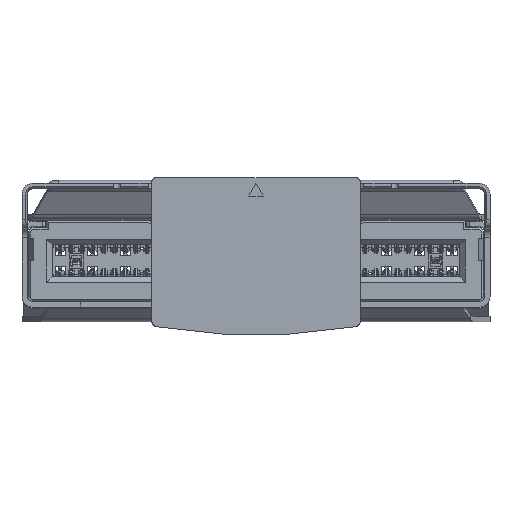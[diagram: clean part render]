
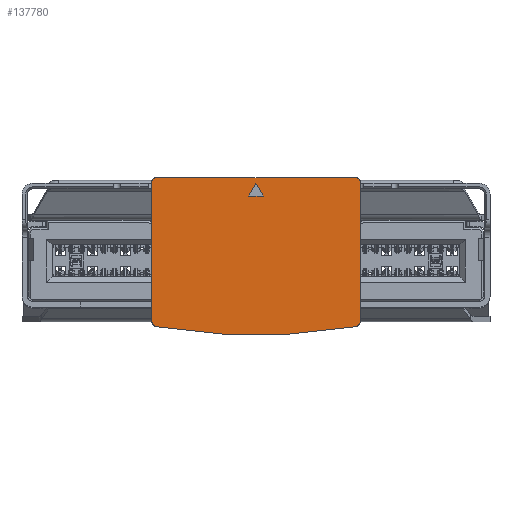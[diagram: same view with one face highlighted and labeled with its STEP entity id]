
A CAD part, top view. The second image highlights one B-rep face of the part: STEP entity #137780.
In plain terms, the highlighted planar face has unit normal (0, 0, 1).
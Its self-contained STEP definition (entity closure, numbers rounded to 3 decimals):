
#135042=CARTESIAN_POINT('',(5.74,-3.337,2.05));
#135043=CARTESIAN_POINT('',(5.74,-3.387,2.05));
#135044=CARTESIAN_POINT('',(5.718,-3.476,2.05));
#135045=CARTESIAN_POINT('',(5.626,-3.586,2.05));
#135046=CARTESIAN_POINT('',(5.54,-3.625,2.05));
#135047=CARTESIAN_POINT('',(5.49,-3.633,2.05));
#135049=CARTESIAN_POINT('',(0.,29.108,2.05));
#135050=DIRECTION('',(0.,0.,-1.));
#135051=DIRECTION('',(0.165,-0.986,0.));
#135052=AXIS2_PLACEMENT_3D('',#135049,#135050,#135051);
#135054=CARTESIAN_POINT('',(-5.49,-3.633,2.05));
#135055=CARTESIAN_POINT('',(-5.539,-3.625,2.05));
#135056=CARTESIAN_POINT('',(-5.623,-3.588,2.05));
#135057=CARTESIAN_POINT('',(-5.716,-3.479,2.05));
#135058=CARTESIAN_POINT('',(-5.74,-3.388,2.05));
#135059=CARTESIAN_POINT('',(-5.74,-3.338,2.05));
#135061=DIRECTION('',(0.,1.,0.));
#135062=VECTOR('',#135061,7.708);
#135063=CARTESIAN_POINT('',(-5.74,-3.338,2.05));
#135064=LINE('',#135063,#135062);
#135065=CARTESIAN_POINT('',(-5.54,4.37,2.05));
#135066=DIRECTION('',(0.,0.,-1.));
#135067=DIRECTION('',(-1.,0.,0.));
#135068=AXIS2_PLACEMENT_3D('',#135065,#135066,#135067);
#135070=DIRECTION('',(1.,0.,0.));
#135071=VECTOR('',#135070,11.08);
#135072=CARTESIAN_POINT('',(-5.54,4.57,2.05));
#135073=LINE('',#135072,#135071);
#135074=CARTESIAN_POINT('',(5.54,4.37,2.05));
#135075=DIRECTION('',(0.,0.,-1.));
#135076=DIRECTION('',(0.,1.,0.));
#135077=AXIS2_PLACEMENT_3D('',#135074,#135075,#135076);
#135079=DIRECTION('',(0.,-1.,0.));
#135080=VECTOR('',#135079,7.707);
#135081=CARTESIAN_POINT('',(5.74,4.37,2.05));
#135082=LINE('',#135081,#135080);
#135083=DIRECTION('',(-0.5,-0.866,0.));
#135084=VECTOR('',#135083,0.808);
#135085=CARTESIAN_POINT('',(0.,4.27,2.05));
#135086=LINE('',#135085,#135084);
#135087=DIRECTION('',(-0.5,0.866,0.));
#135088=VECTOR('',#135087,0.808);
#135089=CARTESIAN_POINT('',(0.404,3.57,2.05));
#135090=LINE('',#135089,#135088);
#136902=DIRECTION('',(-1.,0.,0.));
#136903=VECTOR('',#136902,0.808);
#136904=CARTESIAN_POINT('',(0.404,3.57,2.05));
#136905=LINE('',#136904,#136903);
#136999=CARTESIAN_POINT('',(-5.74,-3.338,2.05));
#137001=VERTEX_POINT('',#136999);
#137022=CARTESIAN_POINT('',(-5.74,4.37,2.05));
#137023=VERTEX_POINT('',#137022);
#137024=VERTEX_POINT('',#135054);
#137027=VERTEX_POINT('',#135042);
#137028=VERTEX_POINT('',#135047);
#137029=CARTESIAN_POINT('',(-5.54,4.57,2.05));
#137030=VERTEX_POINT('',#137029);
#137031=CARTESIAN_POINT('',(5.54,4.57,2.05));
#137032=VERTEX_POINT('',#137031);
#137033=CARTESIAN_POINT('',(5.74,4.37,2.05));
#137034=VERTEX_POINT('',#137033);
#137035=CARTESIAN_POINT('',(0.,4.27,2.05));
#137036=CARTESIAN_POINT('',(-0.404,3.57,2.05));
#137037=VERTEX_POINT('',#137035);
#137038=VERTEX_POINT('',#137036);
#137039=CARTESIAN_POINT('',(0.404,3.57,2.05));
#137040=VERTEX_POINT('',#137039);
#137751=CARTESIAN_POINT('',(0.,0.,2.05));
#137752=DIRECTION('',(0.,0.,1.));
#137753=DIRECTION('',(1.,0.,0.));
#137754=AXIS2_PLACEMENT_3D('',#137751,#137752,#137753);
#137755=PLANE('',#137754);
#137757=ORIENTED_EDGE('',*,*,#137756,.T.);
#137759=ORIENTED_EDGE('',*,*,#137758,.T.);
#137760=ORIENTED_EDGE('',*,*,#137741,.T.);
#137761=ORIENTED_EDGE('',*,*,#137731,.T.);
#137763=ORIENTED_EDGE('',*,*,#137762,.T.);
#137765=ORIENTED_EDGE('',*,*,#137764,.T.);
#137767=ORIENTED_EDGE('',*,*,#137766,.T.);
#137769=ORIENTED_EDGE('',*,*,#137768,.T.);
#137770=EDGE_LOOP('',(#137757,#137759,#137760,#137761,#137763,#137765,#137767,
#137769));
#137771=FACE_OUTER_BOUND('',#137770,.F.);
#137773=ORIENTED_EDGE('',*,*,#137772,.T.);
#137775=ORIENTED_EDGE('',*,*,#137774,.F.);
#137777=ORIENTED_EDGE('',*,*,#137776,.T.);
#137778=EDGE_LOOP('',(#137773,#137775,#137777));
#137779=FACE_BOUND('',#137778,.F.);
#135048=B_SPLINE_CURVE_WITH_KNOTS('',3,(#135042,#135043,#135044,#135045,#135046,
#135047),.UNSPECIFIED.,.F.,.F.,(4,1,1,4),(0.,0.333,
0.667,1.),.UNSPECIFIED.);
#135053=CIRCLE('',#135052,33.198);
#135060=B_SPLINE_CURVE_WITH_KNOTS('',3,(#135054,#135055,#135056,#135057,#135058,
#135059),.UNSPECIFIED.,.F.,.F.,(4,1,1,4),(0.,0.333,
0.667,1.),.UNSPECIFIED.);
#135069=CIRCLE('',#135068,0.2);
#135078=CIRCLE('',#135077,0.2);
#137731=EDGE_CURVE('',#137001,#137023,#135064,.T.);
#137741=EDGE_CURVE('',#137024,#137001,#135060,.T.);
#137756=EDGE_CURVE('',#137027,#137028,#135048,.T.);
#137758=EDGE_CURVE('',#137028,#137024,#135053,.T.);
#137762=EDGE_CURVE('',#137023,#137030,#135069,.T.);
#137764=EDGE_CURVE('',#137030,#137032,#135073,.T.);
#137766=EDGE_CURVE('',#137032,#137034,#135078,.T.);
#137768=EDGE_CURVE('',#137034,#137027,#135082,.T.);
#137772=EDGE_CURVE('',#137037,#137038,#135086,.T.);
#137774=EDGE_CURVE('',#137040,#137038,#136905,.T.);
#137776=EDGE_CURVE('',#137040,#137037,#135090,.T.);
#137780=ADVANCED_FACE('',(#137771,#137779),#137755,.T.);
